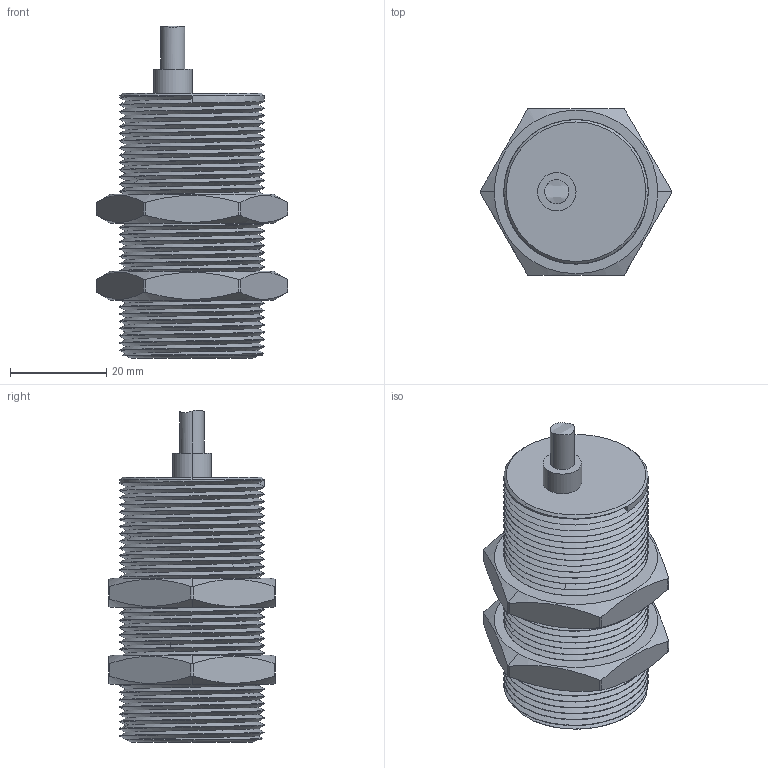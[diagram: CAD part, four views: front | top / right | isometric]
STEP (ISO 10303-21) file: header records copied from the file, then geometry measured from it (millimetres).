
FILE_DESCRIPTION((''),'2;1');
FILE_NAME('M30_QP_L55_ASM','2019-07-17T',('Administrator'),(''),'PRO/ENGINEER BY PARAMETRIC TECHNOLOGY CORPORATION, 2012130','PRO/ENGINEER BY PARAMETRIC TECHNOLOGY CORPORATION, 2012130','');
FILE_SCHEMA(('AUTOMOTIVE_DESIGN { 1 0 10303 214 1 1 1 1 }'));
Length unit declared in the file: millimetre
Products named in the file (3): M30_QP_L55; M30_LM; M30_QP_L55_ASM
Assembly tree (3 placements, depth 2):
  M30_QP_L55_ASM
    M30_QP_L55
    M30_LM  x2
Bounding box: 39.85 x 34.64 x 68.99 mm (x, y, z)
Volume: 41335.8 mm3; surface area: 15793.1 mm2
Topology: 3 solids, 3 shells, 162 faces, 447 edges, 294 vertices
Faces by surface type: cylinder 97, bspline 28, plane 23, cone 11, torus 2, extrusion 1
Entity records: 15416 total; most frequent: CARTESIAN_POINT 11470, ORIENTED_EDGE 728, DIRECTION 399, EDGE_CURVE 364, PRESENTATION_STYLE_ASSIGNMENT 283, STYLED_ITEM 282, CURVE_STYLE 281, VERTEX_POINT 239
